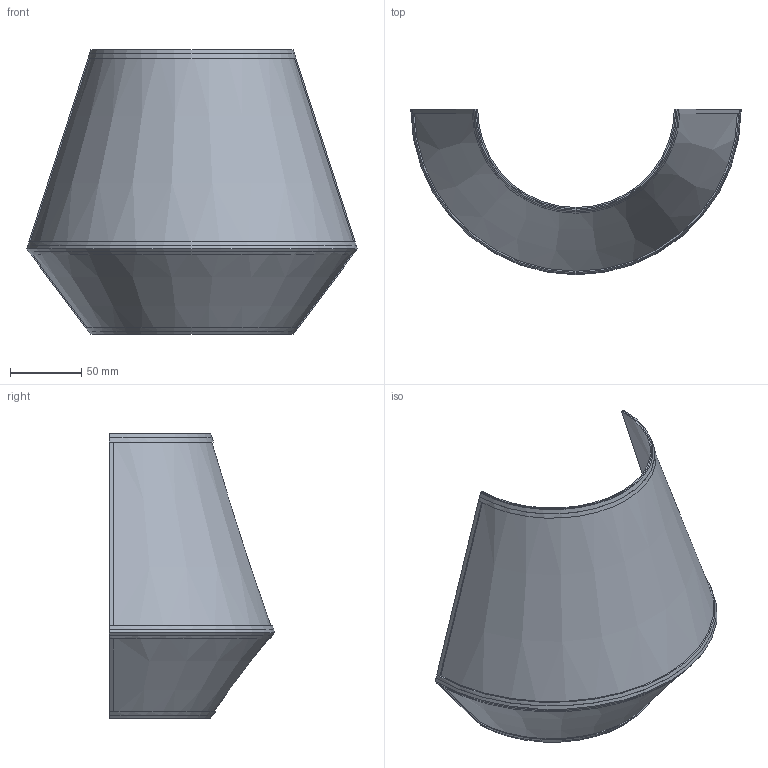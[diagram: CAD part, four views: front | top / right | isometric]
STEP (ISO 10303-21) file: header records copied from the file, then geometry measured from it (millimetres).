
FILE_DESCRIPTION( ( 'STEP AP203' ), '1' );
FILE_NAME( '//srvbf/BF Disegni/SINO/SINO-A Applique 3D.stp', '2020-10-15T12:41:08', ( ' ' ), ( ' ' ), 'XStep 1.0', ' ', ' ' );
FILE_SCHEMA( ( 'CONFIG_CONTROL_DESIGN) ( )' ) );
Length unit declared in the file: metre
Products named in the file (2): 1; 2
Bounding box: 232 x 116 x 200 mm (x, y, z)
Volume: 64397.8 mm3; surface area: 147212.1 mm2
Topology: 2 solids, 2 shells, 52 faces, 132 edges, 80 vertices
Faces by surface type: plane 36, cone 16
Entity records: 1636 total; most frequent: DIRECTION 276, CARTESIAN_POINT 266, ORIENTED_EDGE 264, EDGE_CURVE 132, LINE 96, VECTOR 96, AXIS2_PLACEMENT_3D 90, VERTEX_POINT 80
